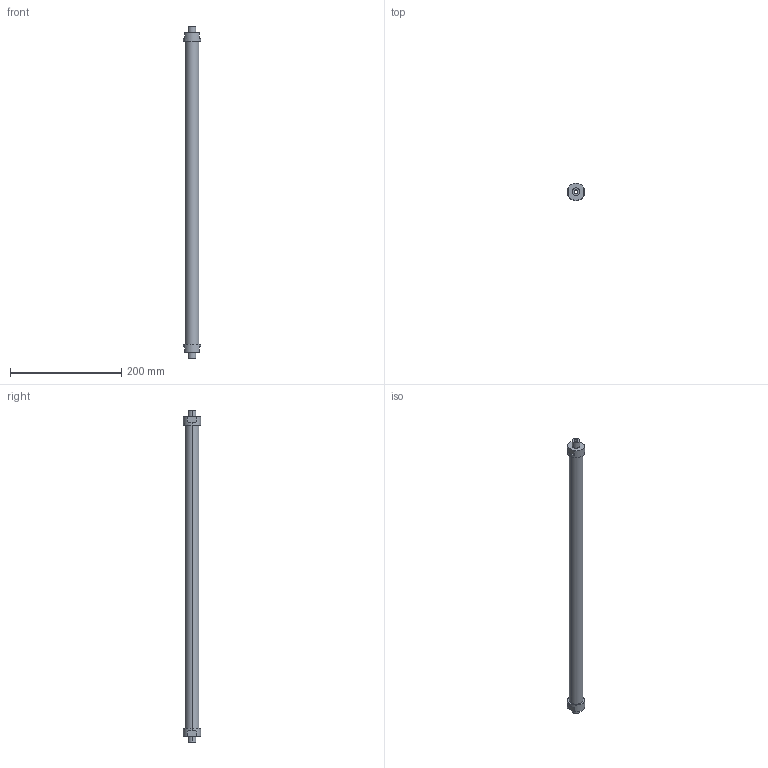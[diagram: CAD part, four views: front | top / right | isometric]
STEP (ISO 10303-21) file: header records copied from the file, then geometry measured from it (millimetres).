
FILE_DESCRIPTION(('STEP AP214'),'1');
FILE_NAME('ETT-R050G584.stp','2015-02-02T12:59:38',(' '),(' '),'Spatial InterOp 3D',' ',' ');
FILE_SCHEMA(('automotive_design'));
Length unit declared in the file: metre
Products named in the file (3): 1; 2; 3
Bounding box: 31 x 31 x 596 mm (x, y, z)
Volume: 275068.6 mm3; surface area: 60304.1 mm2
Topology: 1 solids, 7 shells, 32 faces, 86 edges, 66 vertices
Faces by surface type: cylinder 16, plane 16
Entity records: 1375 total; most frequent: DIRECTION 206, CARTESIAN_POINT 187, ORIENTED_EDGE 148, EDGE_CURVE 86, AXIS2_PLACEMENT_3D 85, VERTEX_POINT 66, CIRCLE 50, EDGE_LOOP 40
